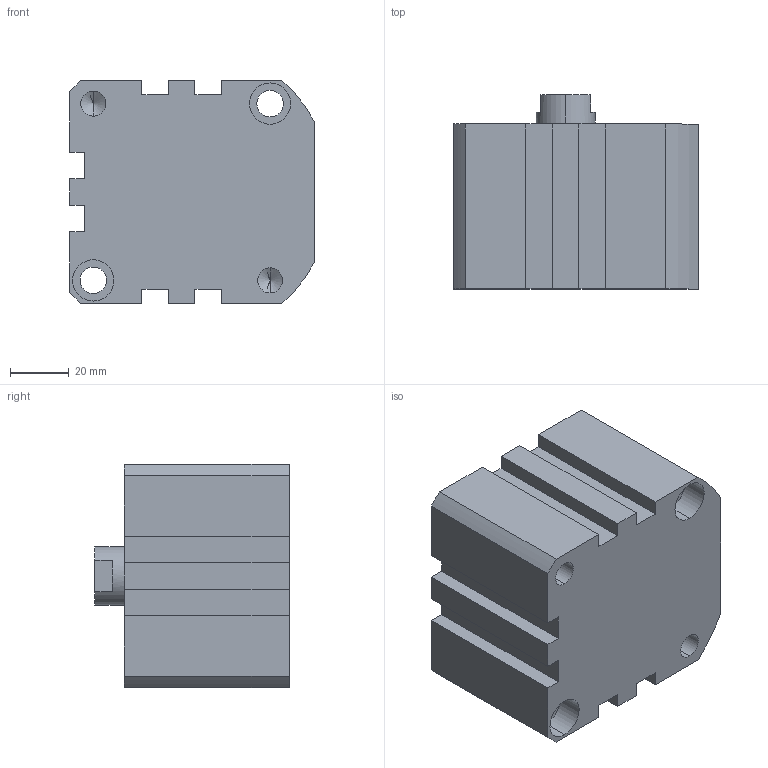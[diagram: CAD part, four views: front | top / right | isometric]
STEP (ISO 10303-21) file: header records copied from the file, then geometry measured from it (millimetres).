
FILE_DESCRIPTION (( 'STEP AP203' ), '1' );
FILE_NAME ('XC#2-63D-10.STEP', '2016-05-23T08:16:11', ( '' ), ( '' ), 'SwSTEP 2.0', 'SolidWorks 2014', '' );
FILE_SCHEMA (( 'CONFIG_CONTROL_DESIGN' ));
Length unit declared in the file: millimetre
Products named in the file (1): XC#2-63D-10
Bounding box: 83 x 66 x 76 mm (x, y, z)
Volume: 308746.4 mm3; surface area: 41083.3 mm2
Topology: 1 solids, 1 shells, 112 faces, 283 edges, 177 vertices
Faces by surface type: cylinder 48, plane 46, cone 18
Entity records: 3372 total; most frequent: DIRECTION 605, CARTESIAN_POINT 559, ORIENTED_EDGE 538, EDGE_CURVE 269, AXIS2_PLACEMENT_3D 223, VERTEX_POINT 177, LINE 159, VECTOR 159
